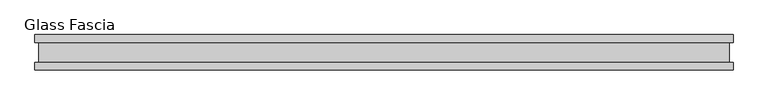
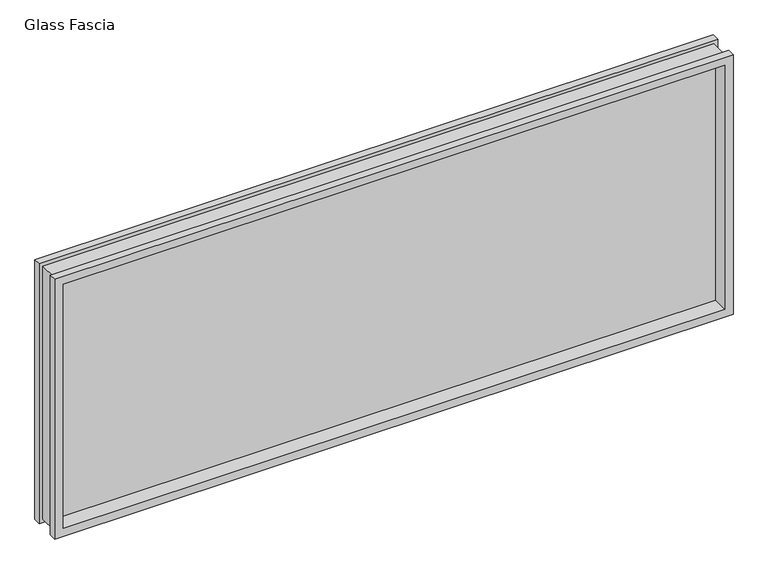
"""IFC4 building model written with IfcOpenShell, lengths in millimetres: proxy geometry, Panel-Fascia-Teknion-Altos-Glass : Glass Fascia."""

from ifc_helpers import new_model, si_unit, frame, origin, place, context, project, spatial, polyline, outline, extrude, faceted_brep, source, transform, mapped, element, save


def glass_fascia_92d9bb8b(model_context):
    return source(origin(), model_context, "Body", "SolidModel", [
        faceted_brep([(978.7046, -5.0827449, 793.1305243), (978.7046, 5.0827449, 793.1305243), (978.7046, 5.0827449, 17.6374757), (978.7046, -5.0827449, 17.6374757), (993.1670757, -28.8801202, 807.593), (993.1670757, -50.0558594, 807.593), (993.1670757, -50.0558594, 3.175), (993.1670757, -28.8801202, 3.175), (982.3420758, 28.2698798, 796.7680001), (982.3420758, -28.8801202, 796.7680001), (982.3420758, -28.8801202, 13.9999999), (982.3420758, 28.2698798, 13.9999999), (993.1670757, 50.0558594, 807.593), (993.1670757, 28.2698798, 807.593), (993.1670757, 28.2698798, 3.175), (993.1670757, 50.0558594, 3.175), (-978.7046, 5.0827449, 17.6374757), (-978.7046, -5.0827449, 17.6374757), (-993.1670757, -50.0558594, 3.175), (-993.1670757, -28.8801202, 3.175), (-982.3420758, -28.8801202, 13.9999999), (-982.3420758, 28.2698798, 13.9999999), (-993.1670757, 28.2698798, 3.175), (-993.1670757, 50.0558594, 3.175), (-978.7046, 5.0827449, 793.1305243), (-978.7046, -5.0827449, 793.1305243), (-993.1670757, -50.0558594, 807.593), (-993.1670757, -28.8801202, 807.593), (-982.3420758, -28.8801202, 796.7680001), (-982.3420758, 28.2698798, 796.7680001), (-993.1670757, 28.2698798, 807.593), (-993.1670757, 50.0558594, 807.593), (968.2144089, 50.0558594, 782.6403332), (-968.2144089, 50.0558594, 782.6403332), (-968.2144089, 50.0558594, 28.1276668), (968.2144089, 50.0558594, 28.1276668), (968.2144089, 5.0827449, 28.1276668), (-968.2144089, 5.0827449, 28.1276668), (-968.2144089, 5.0827449, 782.6403332), (968.2144089, 5.0827449, 782.6403332), (968.2144089, -5.0827449, 782.6403332), (-968.2144089, -5.0827449, 782.6403332), (-968.2144089, -5.0827449, 28.1276668), (968.2144089, -5.0827449, 28.1276668), (968.2144089, -50.0558594, 28.1276668), (-968.2144089, -50.0558594, 28.1276668), (-968.2144089, -50.0558594, 782.6403332), (968.2144089, -50.0558594, 782.6403332)], [[[0, 1, 2, 3]], [[4, 5, 6, 7]], [[8, 9, 10, 11]], [[12, 13, 14, 15]], [[3, 2, 16, 17]], [[7, 6, 18, 19]], [[11, 10, 20, 21]], [[15, 14, 22, 23]], [[17, 16, 24, 25]], [[19, 18, 26, 27]], [[21, 20, 28, 29]], [[23, 22, 30, 31]], [[15, 23, 31, 12], [32, 33, 34, 35]], [[1, 24, 16, 2], [36, 37, 38, 39]], [[25, 24, 1, 0]], [[3, 17, 25, 0], [40, 41, 42, 43]], [[5, 26, 18, 6], [44, 45, 46, 47]], [[27, 26, 5, 4]], [[7, 19, 27, 4], [9, 28, 20, 10]], [[29, 28, 9, 8]], [[13, 30, 22, 14], [11, 21, 29, 8]], [[31, 30, 13, 12]], [[39, 32, 35, 36]], [[47, 40, 43, 44]], [[36, 35, 34, 37]], [[44, 43, 42, 45]], [[37, 34, 33, 38]], [[45, 42, 41, 46]], [[38, 33, 32, 39]], [[46, 41, 40, 47]]]),
        extrude(outline(polyline([(978.7046, 2.9765625), (978.7046, -2.9765625), (-978.7046, -2.9765625), (-978.7046, 2.9765625), (978.7046, 2.9765625)])), frame((0.0, 0.0, 17.6374757), z_axis=(0.0, 0.0, 1.0), x_axis=(1.0, 0.0, 0.0)), (0.0, 0.0, 1.0), 775.4930485),
    ])


if __name__ == "__main__":
    model = new_model("IFC4")
    model_context = context("Model", 3, world=origin())
    ifc_project = project(units=[si_unit("LENGTHUNIT", "METRE", prefix="MILLI")], contexts=[model_context])
    site = spatial("IfcSite", under=ifc_project)
    building = spatial("IfcBuilding", under=site)
    placement = place(None, origin())
    glass_fascia_shape = glass_fascia_92d9bb8b(model_context)
    element("IfcBuildingElementProxy", 1, Name="Panel-Fascia-Teknion-Altos-Glass : Glass Fascia", ObjectType="Panel-Fascia-Teknion-Altos-Glass : Glass Fascia", at=placement, inside=building, context=model_context, shape_type="MappedRepresentation", body=[
        mapped(glass_fascia_shape, transform((0.0, 0.0, 0.0), x_axis=(1.0, 0.0, 0.0), y_axis=(0.0, 1.0, 0.0), z_axis=(0.0, 0.0, 1.0))),
    ])
    save(model, "model.ifc")
